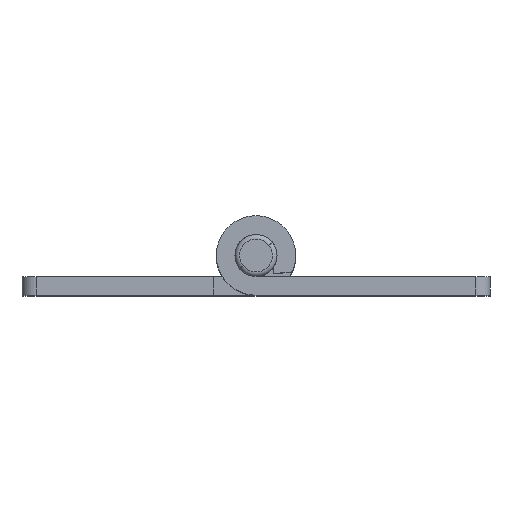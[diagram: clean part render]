
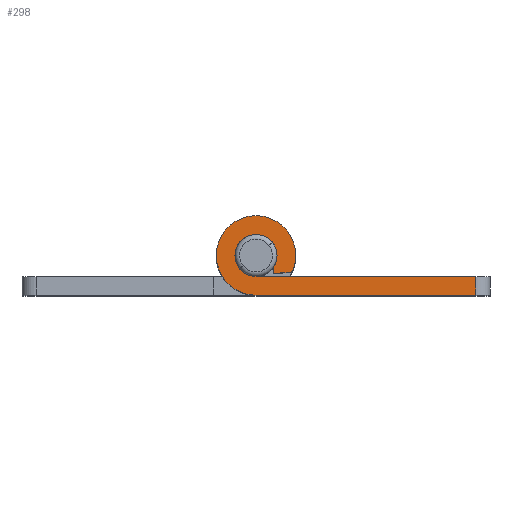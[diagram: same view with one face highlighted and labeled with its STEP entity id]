
A CAD part, top view. The second image highlights one B-rep face of the part: STEP entity #298.
In plain terms, the highlighted planar face has unit normal (0, 0, 1).
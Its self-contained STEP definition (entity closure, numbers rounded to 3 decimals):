
#44 = CARTESIAN_POINT ( 'NONE',  ( 0., 0., 65. ) ) ;
#99 = DIRECTION ( 'NONE',  ( 0., 0., 1. ) ) ;
#148 = CARTESIAN_POINT ( 'NONE',  ( 2.25, 0., 65. ) ) ;
#298 = ADVANCED_FACE ( 'NONE', ( #431 ), #2294, .T. ) ;
#339 = DIRECTION ( 'NONE',  ( 0., 0., -1. ) ) ;
#348 = ORIENTED_EDGE ( 'NONE', *, *, #7128, .T. ) ;
#391 = VERTEX_POINT ( 'NONE', #5706 ) ;
#431 = FACE_OUTER_BOUND ( 'NONE', #7287, .T. ) ;
#703 = VERTEX_POINT ( 'NONE', #2054 ) ;
#863 = VERTEX_POINT ( 'NONE', #5384 ) ;
#874 = CARTESIAN_POINT ( 'NONE',  ( 3.873, -1.75, 65. ) ) ;
#983 = ORIENTED_EDGE ( 'NONE', *, *, #6880, .T. ) ;
#1018 = AXIS2_PLACEMENT_3D ( 'NONE', #6120, #2684, #6681 ) ;
#1027 = LINE ( 'NONE', #6729, #5417 ) ;
#1263 = CIRCLE ( 'NONE', #2394, 2.25 ) ;
#1265 = VERTEX_POINT ( 'NONE', #1767 ) ;
#1274 = EDGE_CURVE ( 'NONE', #4598, #2199, #7198, .T. ) ;
#1324 = VERTEX_POINT ( 'NONE', #4442 ) ;
#1511 = ORIENTED_EDGE ( 'NONE', *, *, #5900, .T. ) ;
#1571 = CARTESIAN_POINT ( 'NONE',  ( 25., -2.25, 65. ) ) ;
#1620 = DIRECTION ( 'NONE',  ( 0., 1., 0. ) ) ;
#1661 = LINE ( 'NONE', #6895, #3017 ) ;
#1676 = CARTESIAN_POINT ( 'NONE',  ( 0., 0., 65. ) ) ;
#1767 = CARTESIAN_POINT ( 'NONE',  ( 23.5, -2.25, 65. ) ) ;
#1832 = CARTESIAN_POINT ( 'NONE',  ( 23.5, -4.25, 65. ) ) ;
#1870 = CARTESIAN_POINT ( 'NONE',  ( 0., 0., 65. ) ) ;
#2054 = CARTESIAN_POINT ( 'NONE',  ( 4.25, 0., 65. ) ) ;
#2141 = ORIENTED_EDGE ( 'NONE', *, *, #6919, .T. ) ;
#2199 = VERTEX_POINT ( 'NONE', #5745 ) ;
#2294 = PLANE ( 'NONE',  #2655 ) ;
#2316 = DIRECTION ( 'NONE',  ( 1., 0., 0. ) ) ;
#2394 = AXIS2_PLACEMENT_3D ( 'NONE', #6767, #3359, #7330 ) ;
#2419 = CARTESIAN_POINT ( 'NONE',  ( 1.873, -1.95, 65. ) ) ;
#2432 = DIRECTION ( 'NONE',  ( 0., 0., 1. ) ) ;
#2445 = DIRECTION ( 'NONE',  ( 1., 0., 0. ) ) ;
#2451 = DIRECTION ( 'NONE',  ( 1., 0., 0. ) ) ;
#2496 = ORIENTED_EDGE ( 'NONE', *, *, #6354, .T. ) ;
#2608 = LINE ( 'NONE', #6224, #5650 ) ;
#2616 = CIRCLE ( 'NONE', #6893, 2.25 ) ;
#2655 = AXIS2_PLACEMENT_3D ( 'NONE', #1676, #2432, #2451 ) ;
#2684 = DIRECTION ( 'NONE',  ( 0., 0., 1. ) ) ;
#3017 = VECTOR ( 'NONE', #2316, 1000. ) ;
#3040 = ORIENTED_EDGE ( 'NONE', *, *, #7048, .T. ) ;
#3221 = VECTOR ( 'NONE', #3840, 1000. ) ;
#3359 = DIRECTION ( 'NONE',  ( 0., 0., -1. ) ) ;
#3403 = ORIENTED_EDGE ( 'NONE', *, *, #6433, .T. ) ;
#3491 = CARTESIAN_POINT ( 'NONE',  ( -2.25, 0., 65. ) ) ;
#3535 = CARTESIAN_POINT ( 'NONE',  ( 0., 0., 65. ) ) ;
#3711 = CARTESIAN_POINT ( 'NONE',  ( 1.873, -1.247, 65. ) ) ;
#3735 = EDGE_CURVE ( 'NONE', #1265, #1324, #4736, .T. ) ;
#3785 = CARTESIAN_POINT ( 'NONE',  ( 0., 0., 65. ) ) ;
#3815 = DIRECTION ( 'NONE',  ( 1., 0., 0. ) ) ;
#3840 = DIRECTION ( 'NONE',  ( -1., 0., 0. ) ) ;
#3903 = DIRECTION ( 'NONE',  ( 0.995, 0.1, 0. ) ) ;
#4041 = CIRCLE ( 'NONE', #7147, 4.25 ) ;
#4122 = DIRECTION ( 'NONE',  ( 1., 0., 0. ) ) ;
#4223 = ORIENTED_EDGE ( 'NONE', *, *, #1274, .T. ) ;
#4296 = DIRECTION ( 'NONE',  ( 0., -1., 0. ) ) ;
#4343 = EDGE_CURVE ( 'NONE', #863, #6126, #1661, .T. ) ;
#4363 = DIRECTION ( 'NONE',  ( 1., 0., 0. ) ) ;
#4442 = CARTESIAN_POINT ( 'NONE',  ( 0., -2.25, 65. ) ) ;
#4577 = CIRCLE ( 'NONE', #5630, 4.25 ) ;
#4579 = VERTEX_POINT ( 'NONE', #2419 ) ;
#4598 = VERTEX_POINT ( 'NONE', #148 ) ;
#4736 = LINE ( 'NONE', #1571, #3221 ) ;
#4768 = CIRCLE ( 'NONE', #1018, 4.25 ) ;
#5367 = ORIENTED_EDGE ( 'NONE', *, *, #3735, .T. ) ;
#5384 = CARTESIAN_POINT ( 'NONE',  ( 0., -4.25, 65. ) ) ;
#5417 = VECTOR ( 'NONE', #3903, 1000. ) ;
#5525 = VERTEX_POINT ( 'NONE', #3491 ) ;
#5630 = AXIS2_PLACEMENT_3D ( 'NONE', #3535, #99, #4122 ) ;
#5650 = VECTOR ( 'NONE', #1620, 1000. ) ;
#5706 = CARTESIAN_POINT ( 'NONE',  ( -4.25, 0., 65. ) ) ;
#5722 = ORIENTED_EDGE ( 'NONE', *, *, #6256, .T. ) ;
#5745 = CARTESIAN_POINT ( 'NONE',  ( 1.873, -1.247, 65. ) ) ;
#5832 = AXIS2_PLACEMENT_3D ( 'NONE', #44, #6675, #3815 ) ;
#5884 = DIRECTION ( 'NONE',  ( 0., 0., 1. ) ) ;
#5900 = EDGE_CURVE ( 'NONE', #4579, #6297, #1027, .T. ) ;
#6120 = CARTESIAN_POINT ( 'NONE',  ( 0., 0., 65. ) ) ;
#6126 = VERTEX_POINT ( 'NONE', #1832 ) ;
#6224 = CARTESIAN_POINT ( 'NONE',  ( 23.5, -2.25, 65. ) ) ;
#6256 = EDGE_CURVE ( 'NONE', #2199, #4579, #7161, .T. ) ;
#6297 = VERTEX_POINT ( 'NONE', #874 ) ;
#6354 = EDGE_CURVE ( 'NONE', #5525, #4598, #2616, .T. ) ;
#6433 = EDGE_CURVE ( 'NONE', #391, #863, #4768, .T. ) ;
#6519 = ORIENTED_EDGE ( 'NONE', *, *, #4343, .T. ) ;
#6675 = DIRECTION ( 'NONE',  ( 0., 0., -1. ) ) ;
#6681 = DIRECTION ( 'NONE',  ( 1., 0., 0. ) ) ;
#6729 = CARTESIAN_POINT ( 'NONE',  ( 1.873, -1.95, 65. ) ) ;
#6767 = CARTESIAN_POINT ( 'NONE',  ( 0., 0., 65. ) ) ;
#6880 = EDGE_CURVE ( 'NONE', #1324, #5525, #1263, .T. ) ;
#6893 = AXIS2_PLACEMENT_3D ( 'NONE', #3785, #339, #4363 ) ;
#6895 = CARTESIAN_POINT ( 'NONE',  ( 0., -4.25, 65. ) ) ;
#6919 = EDGE_CURVE ( 'NONE', #6126, #1265, #2608, .T. ) ;
#7048 = EDGE_CURVE ( 'NONE', #6297, #703, #4577, .T. ) ;
#7128 = EDGE_CURVE ( 'NONE', #703, #391, #4041, .T. ) ;
#7147 = AXIS2_PLACEMENT_3D ( 'NONE', #1870, #5884, #2445 ) ;
#7161 = LINE ( 'NONE', #3711, #7328 ) ;
#7198 = CIRCLE ( 'NONE', #5832, 2.25 ) ;
#7287 = EDGE_LOOP ( 'NONE', ( #6519, #2141, #5367, #983, #2496, #4223, #5722, #1511, #3040, #348, #3403 ) ) ;
#7328 = VECTOR ( 'NONE', #4296, 1000. ) ;
#7330 = DIRECTION ( 'NONE',  ( 1., 0., 0. ) ) ;
